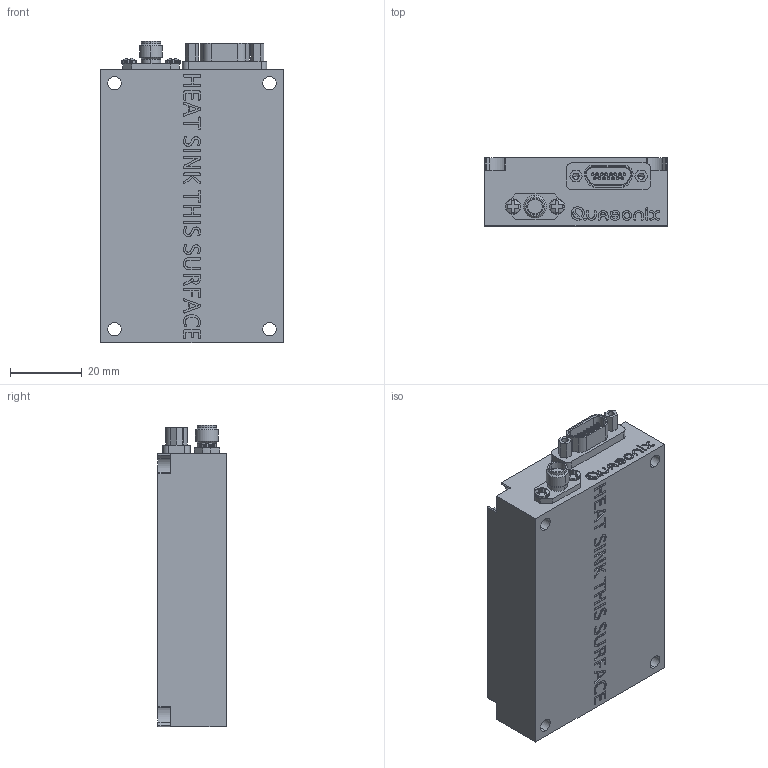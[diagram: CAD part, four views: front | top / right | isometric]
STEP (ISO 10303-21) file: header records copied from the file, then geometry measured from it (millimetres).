
FILE_DESCRIPTION (( 'STEP AP203' ), '1' );
FILE_NAME ('QS-TX-04ATXXX.STEP', '2023-11-02T14:06:40', ( '' ), ( '' ), 'SwSTEP 2.0', 'SolidWorks 2021', '' );
FILE_SCHEMA (( 'CONFIG_CONTROL_DESIGN' ));
Length unit declared in the file: inch
Products named in the file (1): QS-TX-04ATXXX
Bounding box: 50.8 x 19.05 x 84.14 mm (x, y, z)
Volume: 73342.9 mm3; surface area: 15172.4 mm2
Topology: 7 solids, 7 shells, 786 faces, 2015 edges, 1319 vertices
Faces by surface type: plane 316, bspline 248, cylinder 157, cone 49, torus 12, sphere 4
Entity records: 32584 total; most frequent: CARTESIAN_POINT 14812, ORIENTED_EDGE 4022, DIRECTION 2967, EDGE_CURVE 2011, VERTEX_POINT 1319, LINE 1087, VECTOR 1087, AXIS2_PLACEMENT_3D 940
